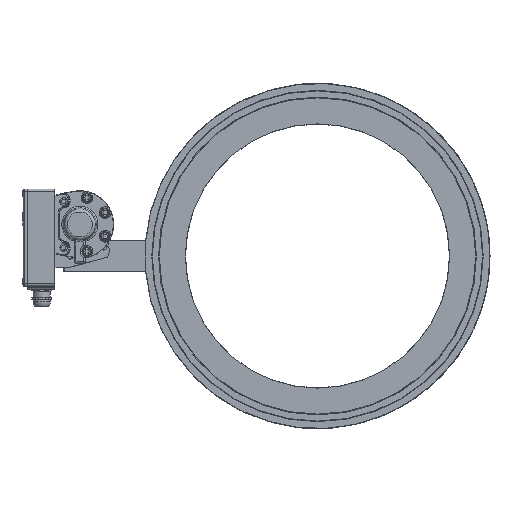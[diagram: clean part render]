
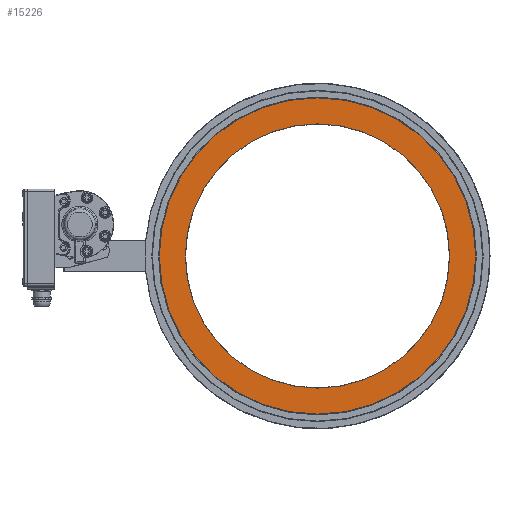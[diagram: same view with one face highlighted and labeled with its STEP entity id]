
A CAD part, top view. The second image highlights one B-rep face of the part: STEP entity #15226.
In plain terms, the highlighted planar face has unit normal (0, 0, 1).
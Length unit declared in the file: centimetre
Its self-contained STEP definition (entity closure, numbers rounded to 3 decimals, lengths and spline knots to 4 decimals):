
#4378=PLANE('',#16398);
#5172=VERTEX_POINT('',#30209);
#5173=VERTEX_POINT('',#30211);
#6378=CIRCLE('',#16430,20.375);
#6379=CIRCLE('',#16431,17.025);
#7317=EDGE_CURVE('',#5172,#5172,#6378,.T.);
#7318=EDGE_CURVE('',#5173,#5173,#6379,.T.);
#10076=ORIENTED_EDGE('',*,*,#7318,.F.);
#10077=ORIENTED_EDGE('',*,*,#7317,.F.);
#13055=EDGE_LOOP('',(#10076));
#13056=EDGE_LOOP('',(#10077));
#14214=FACE_BOUND('',#13055,.T.);
#14215=FACE_BOUND('',#13056,.T.);
#15226=ADVANCED_FACE('',(#14214,#14215),#4378,.F.);
#16398=AXIS2_PLACEMENT_3D('',#30151,#18424,$);
#16430=AXIS2_PLACEMENT_3D('',#30208,#18489,#18490);
#16431=AXIS2_PLACEMENT_3D('',#30210,#18491,#18492);
#18424=DIRECTION('',(0.,0.,-1.));
#18489=DIRECTION('',(0.,0.,-1.));
#18490=DIRECTION('',(-20.375,0.,0.));
#18491=DIRECTION('',(0.,0.,1.));
#18492=DIRECTION('',(17.025,0.,0.));
#30151=CARTESIAN_POINT('',(29.5281,-2.8808,-5.7025));
#30208=CARTESIAN_POINT('',(29.5281,-2.8808,-5.7025));
#30209=CARTESIAN_POINT('',(49.9031,-2.8808,-5.7025));
#30210=CARTESIAN_POINT('',(29.5281,-2.8808,-5.7025));
#30211=CARTESIAN_POINT('',(12.5031,-2.8808,-5.7025));
